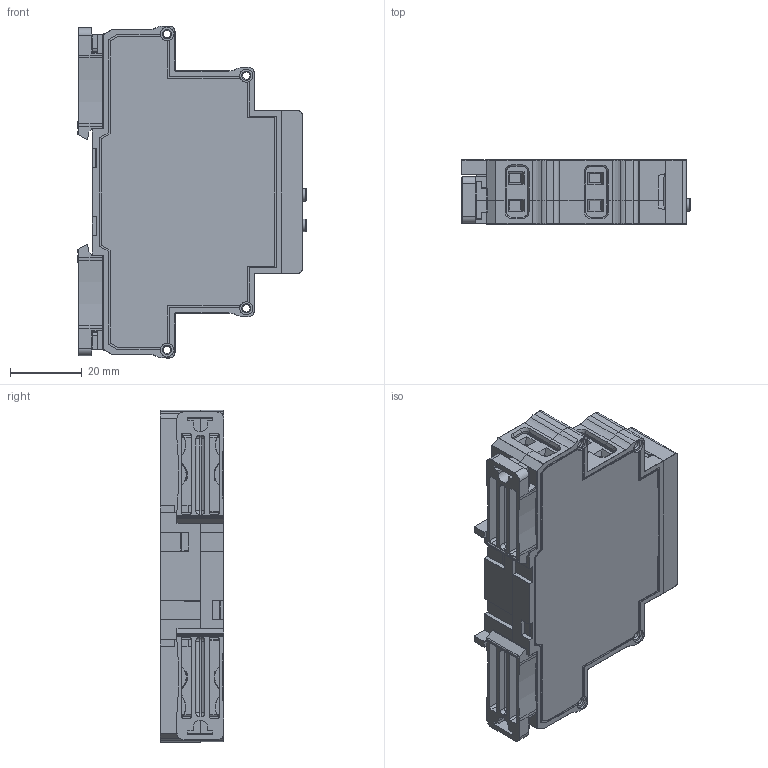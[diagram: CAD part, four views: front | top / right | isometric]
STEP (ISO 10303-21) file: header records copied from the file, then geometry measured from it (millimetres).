
FILE_DESCRIPTION(('STEP AP242'), '1');
FILE_NAME('ﾑ碚濱ﾒﾐ-ﾌ03', '', ('UNSPECIFIED'), ('UNSPECIFIED'), 'C3D Converter', 'C3D Toolkit', '');
FILE_SCHEMA(('AP242_MANAGED_MODEL_BASED_3D_ENGINEERING_MIM_LF { 1 0 10303 442 1 1 4 }'));
Length unit declared in the file: millimetre
Products named in the file (15): Case_UC1-2sR-2024_SimpleModel_6mm; Case_UC1-2sR-2024_SimpleModel_11mm; UC1-2sR-2024_Plug_18mm; Case_UC1-2sR_Face_2024_18mm__FR.FP.0000037; Case13-18-23mm_2step_Lock_v01a_Build20140909_1552; DG128-5.08_Configurable_5.08x3
Assembly tree (17 placements, depth 2):
  (unnamed)
    Case_UC1-2sR-2024_SimpleModel_6mm
    Case_UC1-2sR-2024_SimpleModel_11mm
    UC1-2sR-2024_Plug_18mm
    Case_UC1-2sR_Face_2024_18mm__FR.FP.0000037
    Case13-18-23mm_2step_Lock_v01a_Build20140909_1552  x2
    (unnamed)  x2
    DG128-5.08_Configurable_5.08x3
    (unnamed)
    (unnamed)  x2
    (unnamed)
    (unnamed)
    (unnamed)
    (unnamed)
    (unnamed)
Bounding box: 63.73 x 17.75 x 92.4 mm (x, y, z)
Volume: 24921.1 mm3; surface area: 37963.5 mm2
Topology: 32 solids, 32 shells, 3637 faces, 10106 edges, 6549 vertices
Faces by surface type: plane 2801, cylinder 413, extrusion 204, torus 115, cone 48, sphere 36, bspline 20
Full cylindrical faces by diameter (mm): 1.238 x3, 2.1 x9, 2.3 x1, 2.4 x1, 3.5 x2, 3.7 x8, 3.8 x2, 3.9 x7
Entity records: 140984 total; most frequent: CARTESIAN_POINT 23920, ORIENTED_EDGE 19270, DIRECTION 16773, EDGE_CURVE 9635, VECTOR 8399, LINE 8195, VERTEX_POINT 6296, AXIS2_PLACEMENT_3D 4187
